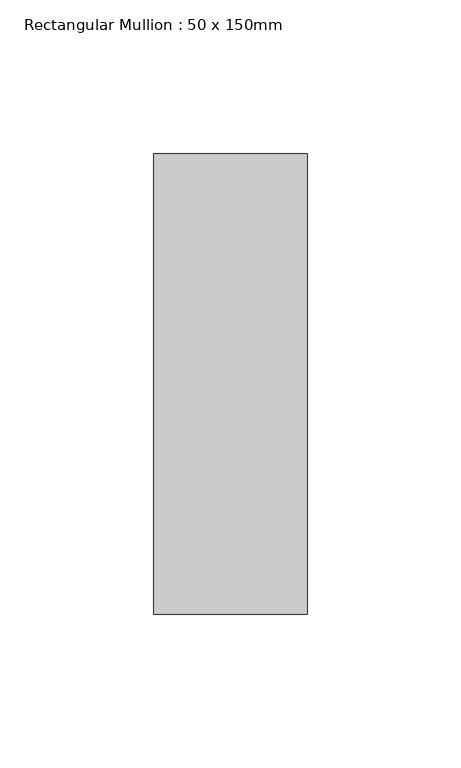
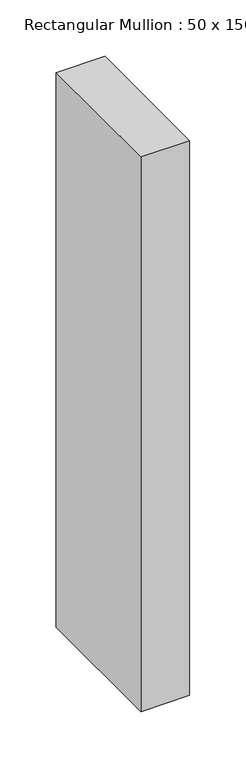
"""IFC4 building model written with IfcOpenShell, lengths in millimetres: member geometry, Rectangular Mullion : 50 x 150mm."""

from ifc_helpers import new_model, si_unit, frame, origin, place, context, project, spatial, polyline, outline, extrude, source, transform, mapped, element, save


def rectangular_mullion_50_x_150mm_64d38db8(model_context):
    return source(origin(), model_context, "Body", "SweptSolid", [
        extrude(outline(polyline([(0.0, 75.0), (0.0, -75.0), (-50.0, -75.0), (-50.0, 75.0), (0.0, 75.0)])), frame((0.0, 0.0, -600.0), z_axis=(0.0, 0.0, 1.0), x_axis=(1.0, 0.0, 0.0)), (0.0, 0.0, 1.0), 600.0),
    ])


if __name__ == "__main__":
    model = new_model("IFC4")
    model_context = context("Model", 3, world=origin())
    ifc_project = project(units=[si_unit("LENGTHUNIT", "METRE", prefix="MILLI")], contexts=[model_context])
    site = spatial("IfcSite", under=ifc_project)
    building = spatial("IfcBuilding", under=site)
    placement = place(None, origin())
    rectangular_mullion_50_x_150mm_shape = rectangular_mullion_50_x_150mm_64d38db8(model_context)
    element("IfcMember", 1, ObjectType="Rectangular Mullion : 50 x 150mm", at=placement, inside=building, context=model_context, shape_type="MappedRepresentation", body=[
        mapped(rectangular_mullion_50_x_150mm_shape, transform((0.0, 0.0, 0.0), x_axis=(1.0, 0.0, 0.0), y_axis=(0.0, 1.0, 0.0), z_axis=(0.0, 0.0, 1.0))),
    ])
    save(model, "model.ifc")
